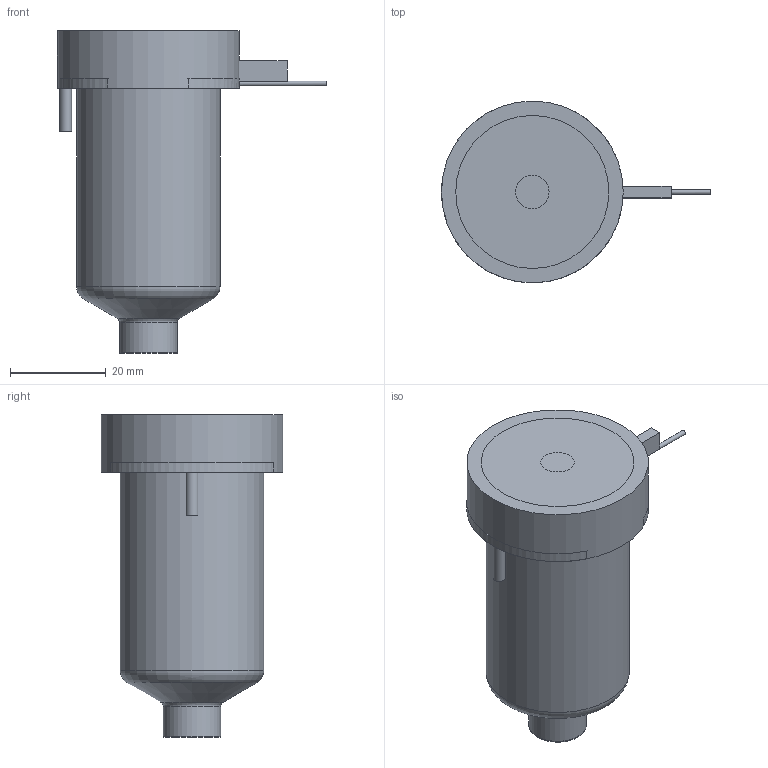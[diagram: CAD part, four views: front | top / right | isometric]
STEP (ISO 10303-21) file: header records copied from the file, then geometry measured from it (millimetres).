
FILE_DESCRIPTION(/* description */ (''),/* implementation_level */ '2;1');
FILE_NAME(/* name */ 'BXTBE16055_250C_a',/* time_stamp */ '2016-03-02T14:48:49+13:00',/* author */ (''),/* organization */ (''),/* preprocessor_version */ 'ST-DEVELOPER v9',/* originating_system */ 'UGS - NX 4.0',/* authorisation */ '');
FILE_SCHEMA (('CONFIG_CONTROL_DESIGN'));
Length unit declared in the file: millimetre
Products named in the file (1): matt3462e04w
Bounding box: 56.25 x 38 x 67.38 mm (x, y, z)
Volume: 82437.4 mm3; surface area: 16243.7 mm2
Topology: 2 solids, 2 shells, 65 faces, 146 edges, 95 vertices
Faces by surface type: plane 30, cylinder 21, torus 7, cone 6, bspline 1
Full cylindrical faces by diameter (mm): 1 x3, 2.5 x1, 7 x1, 11.61 x1, 12.01 x2, 14.8 x1, 25.4 x1, 30 x1, 38 x1
Entity records: 1911 total; most frequent: CARTESIAN_POINT 481, DIRECTION 294, ORIENTED_EDGE 230, AXIS2_PLACEMENT_3D 126, EDGE_CURVE 115, EDGE_LOOP 100, VERTEX_POINT 87, ADVANCED_FACE 65
